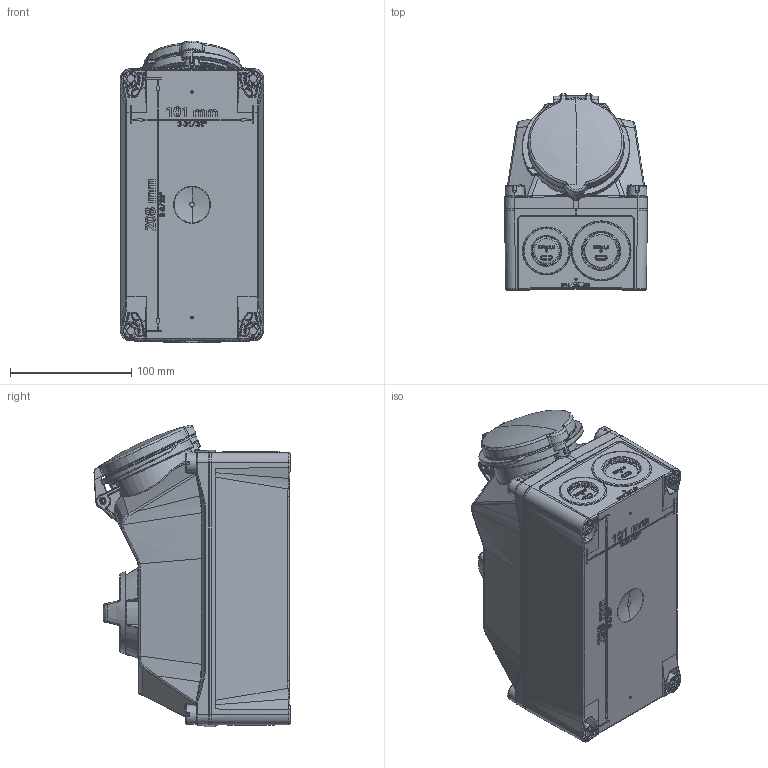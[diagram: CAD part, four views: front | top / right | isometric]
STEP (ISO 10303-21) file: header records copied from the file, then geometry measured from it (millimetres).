
FILE_DESCRIPTION((''),'2;1');
FILE_NAME('1131997_SW0001','2022-08-17T12:20:38',('funke002'),('MENNEKES'),'CREO PARAMETRIC BY PTC INC, 2019080','CREO PARAMETRIC BY PTC INC, 2019080','');
FILE_SCHEMA(('AUTOMOTIVE_DESIGN { 1 0 10303 214 1 1 1 1 }'));
Products named in the file (1): 1131997_SW0001
Bounding box: 118 x 161.61 x 249 mm (x, y, z)
Volume: 3122787.9 mm3; surface area: 169161.3 mm2
Topology: 1 solids, 1 shells, 4040 faces, 10086 edges, 6172 vertices
Faces by surface type: plane 1137, bspline 1099, cylinder 672, extrusion 626, torus 236, sphere 139, cone 131
Entity records: 200842 total; most frequent: CARTESIAN_POINT 83007, ORIENTED_EDGE 20146, DIRECTION 13755, EDGE_CURVE 10073, VERTEX_POINT 6171, AXIS2_PLACEMENT_3D 4587, VECTOR 4581, PRESENTATION_STYLE_ASSIGNMENT 4569
